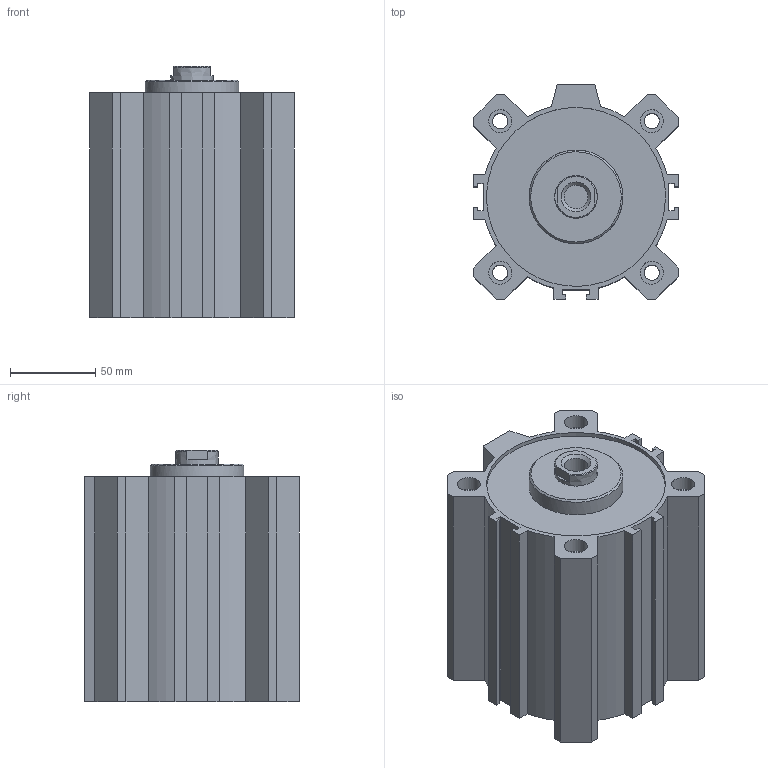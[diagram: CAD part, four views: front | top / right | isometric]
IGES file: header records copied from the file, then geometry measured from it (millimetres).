
Global section: file name: 1511_100_0080; native system: Autodesk Inventor 2014; preprocessor: unknown; author: A. Manieri; date: 20160824.162713; units: millimetre
Bounding box: 120 x 126 x 147.5 mm (x, y, z)
Volume: 952807.7 mm3; surface area: 203608.3 mm2
Topology: 2 solids, 2 shells, 119 faces, 307 edges, 210 vertices
Faces by surface type: bspline 119
